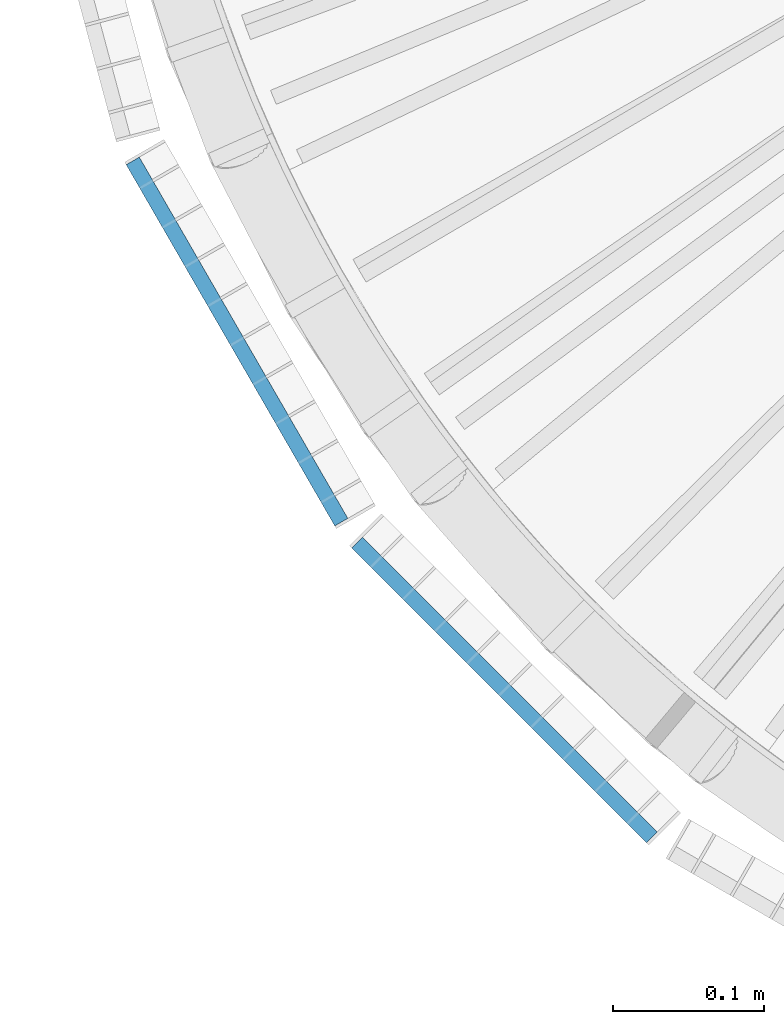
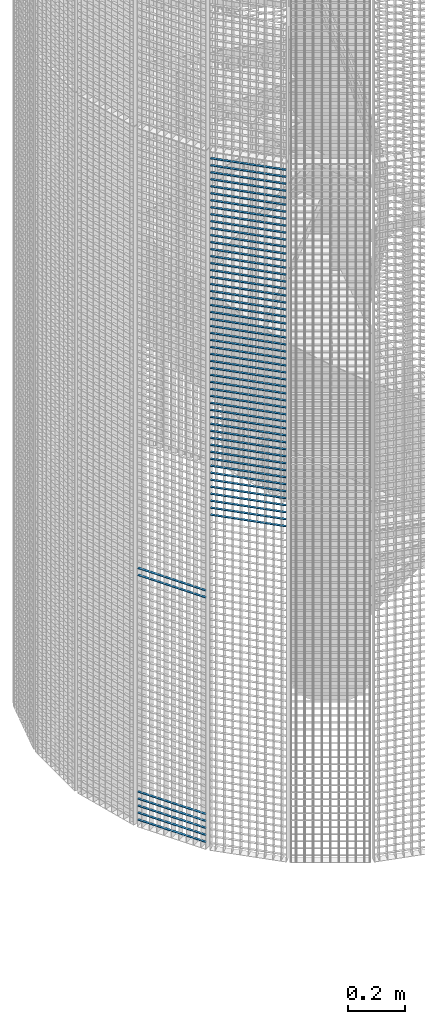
# One storey, part 382 of 1183: 59 beams, 2 elements without a shape of their own.
"""IFC2X3 building model written with IfcOpenShell, lengths in millimetres."""

from ifc_helpers import new_model, si_unit, frame, origin_with_axes, origin_2d_with_axis, place, context, subcontext, project, spatial, rectangle, extrude, material, type_object, element, aggregate, save


model = new_model("IFC2X3")

# Units and contexts
model_context = context("Model", 3, precision=1e-05, world=origin_with_axes())
body_context = subcontext(model_context, "Body", "Model", "MODEL_VIEW")
ifc_project = project(units=[si_unit("LENGTHUNIT", "METRE", prefix="MILLI"), si_unit("AREAUNIT", "SQUARE_METRE"), si_unit("VOLUMEUNIT", "CUBIC_METRE"), si_unit("MASSUNIT", "GRAM", prefix="KILO"), si_unit("TIMEUNIT", "SECOND"), si_unit("PLANEANGLEUNIT", "RADIAN"), si_unit("SOLIDANGLEUNIT", "STERADIAN"), si_unit("THERMODYNAMICTEMPERATUREUNIT", "DEGREE_CELSIUS"), si_unit("LUMINOUSINTENSITYUNIT", "LUMEN")], contexts=[model_context])

# Site, building, storey
site_placement = place(None, origin_with_axes())
site = spatial("IfcSite", under=ifc_project, at=site_placement, Name="Undefined", CompositionType="ELEMENT")
building_placement = place(site_placement, origin_with_axes())
building = spatial("IfcBuilding", under=site, at=building_placement, Name="Undefined", CompositionType="ELEMENT")
storey_placement = place(building_placement, origin_with_axes())
storey = spatial("IfcBuildingStorey", under=building, at=storey_placement, Name="Undefined", CompositionType="ELEMENT", Elevation=0.0)

# Assembly, beams
assembly_1_placement = place(storey_placement, origin_with_axes())
assembly_1 = element("IfcElementAssembly", 1, at=assembly_1_placement, inside=storey, Name="BORDURE", AssemblyPlace="NOTDEFINED", PredefinedType="NOTDEFINED")
ifc_material = material(Name="STEEL/S235JR")
beam_type = type_object("IfcBeamType", Name="PL2*10", PredefinedType="NOTDEFINED")
beam_1_placement = place(assembly_1_placement, frame((20704.6960350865, -676.24804453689, 149.999999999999), z_axis=(-0.866025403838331, -0.499999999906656, 0.0), x_axis=(-0.49999999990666, 0.866025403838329, 0.0)))
beam_1 = element("IfcBeam", 2, at=beam_1_placement, type_object=beam_type, material=ifc_material, Name="ENTRETOISE", context=body_context, shape_type="SweptSolid", body=[
    extrude(rectangle(XDim=2.0, YDim=10.0, at=origin_2d_with_axis()), frame((275.999999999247, 9.09494701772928e-13, 1.53210777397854e-14), z_axis=(-1.0, 0.0, 0.0), x_axis=(0.0, -1.0, 0.0)), (0.0, 0.0, 1.0), 276.0),
])
beam_2_placement = place(assembly_1_placement, frame((20704.6960350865, -676.24804453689, 119.999999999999), z_axis=(-0.866025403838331, -0.499999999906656, 0.0), x_axis=(-0.49999999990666, 0.866025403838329, 0.0)))
beam_2 = element("IfcBeam", 3, at=beam_2_placement, type_object=beam_type, material=ifc_material, Name="ENTRETOISE", context=body_context, shape_type="SweptSolid", body=[
    extrude(rectangle(XDim=2.0, YDim=10.0, at=origin_2d_with_axis()), frame((275.999999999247, 9.09494701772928e-13, 1.53210777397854e-14), z_axis=(-1.0, 0.0, 0.0), x_axis=(0.0, -1.0, 0.0)), (0.0, 0.0, 1.0), 276.0),
])
beam_3_placement = place(assembly_1_placement, frame((20704.6960350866, -676.248044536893, 1080.0), z_axis=(-0.866025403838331, -0.499999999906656, 0.0), x_axis=(-0.49999999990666, 0.866025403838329, 0.0)))
beam_3 = element("IfcBeam", 4, at=beam_3_placement, type_object=beam_type, material=ifc_material, Name="ENTRETOISE", context=body_context, shape_type="SweptSolid", body=[
    extrude(rectangle(XDim=2.0, YDim=10.0, at=origin_2d_with_axis()), frame((275.999999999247, 9.09494701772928e-13, 1.53210777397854e-14), z_axis=(-1.0, 0.0, 0.0), x_axis=(0.0, -1.0, 0.0)), (0.0, 0.0, 1.0), 276.0),
])
beam_4_placement = place(assembly_1_placement, frame((20704.6960350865, -676.248044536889, 89.9999999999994), z_axis=(-0.866025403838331, -0.499999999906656, 0.0), x_axis=(-0.49999999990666, 0.866025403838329, 0.0)))
beam_4 = element("IfcBeam", 5, at=beam_4_placement, type_object=beam_type, material=ifc_material, Name="ENTRETOISE", context=body_context, shape_type="SweptSolid", body=[
    extrude(rectangle(XDim=2.0, YDim=10.0, at=origin_2d_with_axis()), frame((275.999999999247, 9.09494701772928e-13, 1.53210777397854e-14), z_axis=(-1.0, 0.0, 0.0), x_axis=(0.0, -1.0, 0.0)), (0.0, 0.0, 1.0), 276.0),
])
beam_5_placement = place(assembly_1_placement, frame((20704.6960350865, -676.248044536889, 59.9999999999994), z_axis=(-0.866025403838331, -0.499999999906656, 0.0), x_axis=(-0.49999999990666, 0.866025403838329, 0.0)))
beam_5 = element("IfcBeam", 6, at=beam_5_placement, type_object=beam_type, material=ifc_material, Name="ENTRETOISE", context=body_context, shape_type="SweptSolid", body=[
    extrude(rectangle(XDim=2.0, YDim=10.0, at=origin_2d_with_axis()), frame((275.999999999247, 9.09494701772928e-13, 1.53210777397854e-14), z_axis=(-1.0, 0.0, 0.0), x_axis=(0.0, -1.0, 0.0)), (0.0, 0.0, 1.0), 276.0),
])
beam_6_placement = place(assembly_1_placement, frame((20704.6960350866, -676.248044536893, 1110.0), z_axis=(-0.866025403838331, -0.499999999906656, 0.0), x_axis=(-0.49999999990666, 0.866025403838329, 0.0)))
beam_6 = element("IfcBeam", 7, at=beam_6_placement, type_object=beam_type, material=ifc_material, Name="ENTRETOISE", context=body_context, shape_type="SweptSolid", body=[
    extrude(rectangle(XDim=2.0, YDim=10.0, at=origin_2d_with_axis()), frame((275.999999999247, 9.09494701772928e-13, 1.53210777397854e-14), z_axis=(-1.0, 0.0, 0.0), x_axis=(0.0, -1.0, 0.0)), (0.0, 0.0, 1.0), 276.0),
])
beam_7_placement = place(assembly_1_placement, frame((20704.6960350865, -676.248044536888, 29.9999999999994), z_axis=(-0.866025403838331, -0.499999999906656, 0.0), x_axis=(-0.49999999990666, 0.866025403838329, 0.0)))
beam_7 = element("IfcBeam", 8, at=beam_7_placement, type_object=beam_type, material=ifc_material, Name="ENTRETOISE", context=body_context, shape_type="SweptSolid", body=[
    extrude(rectangle(XDim=2.0, YDim=10.0, at=origin_2d_with_axis()), frame((275.999999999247, 9.09494701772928e-13, 1.53210777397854e-14), z_axis=(-1.0, 0.0, 0.0), x_axis=(0.0, -1.0, 0.0)), (0.0, 0.0, 1.0), 276.0),
])
aggregate(assembly_1, [beam_1, beam_2, beam_3, beam_4, beam_5, beam_6, beam_7])

assembly_2_placement = place(storey_placement, origin_with_axes())
assembly_2 = element("IfcElementAssembly", 9, at=assembly_2_placement, inside=storey, Name="BORDURE", AssemblyPlace="NOTDEFINED", PredefinedType="NOTDEFINED")
beam_8_placement = place(assembly_2_placement, frame((20910.2286510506, -884.927168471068, 2970.0), z_axis=(-0.70710678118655, -0.707106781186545, 0.0), x_axis=(-0.707106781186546, 0.707106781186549, 0.0)))
beam_8 = element("IfcBeam", 10, at=beam_8_placement, type_object=beam_type, material=ifc_material, Name="ENTRETOISE", context=body_context, shape_type="SweptSolid", body=[
    extrude(rectangle(XDim=2.0, YDim=10.0, at=origin_2d_with_axis()), frame((275.999999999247, 9.09494701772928e-13, 1.53210777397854e-14), z_axis=(-1.0, 0.0, 0.0), x_axis=(0.0, -1.0, 0.0)), (0.0, 0.0, 1.0), 276.0),
])
beam_9_placement = place(assembly_2_placement, frame((20910.2286510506, -884.927168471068, 2940.0), z_axis=(-0.70710678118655, -0.707106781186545, 0.0), x_axis=(-0.707106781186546, 0.707106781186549, 0.0)))
beam_9 = element("IfcBeam", 11, at=beam_9_placement, type_object=beam_type, material=ifc_material, Name="ENTRETOISE", context=body_context, shape_type="SweptSolid", body=[
    extrude(rectangle(XDim=2.0, YDim=10.0, at=origin_2d_with_axis()), frame((275.999999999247, 9.09494701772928e-13, 1.53210777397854e-14), z_axis=(-1.0, 0.0, 0.0), x_axis=(0.0, -1.0, 0.0)), (0.0, 0.0, 1.0), 276.0),
])
beam_10_placement = place(assembly_2_placement, frame((20910.2286510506, -884.927168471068, 2910.0), z_axis=(-0.70710678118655, -0.707106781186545, 0.0), x_axis=(-0.707106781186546, 0.707106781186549, 0.0)))
beam_10 = element("IfcBeam", 12, at=beam_10_placement, type_object=beam_type, material=ifc_material, Name="ENTRETOISE", context=body_context, shape_type="SweptSolid", body=[
    extrude(rectangle(XDim=2.0, YDim=10.0, at=origin_2d_with_axis()), frame((275.999999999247, 9.09494701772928e-13, 1.53210777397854e-14), z_axis=(-1.0, 0.0, 0.0), x_axis=(0.0, -1.0, 0.0)), (0.0, 0.0, 1.0), 276.0),
])
beam_11_placement = place(assembly_2_placement, frame((20910.2286510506, -884.927168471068, 2880.0), z_axis=(-0.70710678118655, -0.707106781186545, 0.0), x_axis=(-0.707106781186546, 0.707106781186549, 0.0)))
beam_11 = element("IfcBeam", 13, at=beam_11_placement, type_object=beam_type, material=ifc_material, Name="ENTRETOISE", context=body_context, shape_type="SweptSolid", body=[
    extrude(rectangle(XDim=2.0, YDim=10.0, at=origin_2d_with_axis()), frame((275.999999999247, 9.09494701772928e-13, 1.53210777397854e-14), z_axis=(-1.0, 0.0, 0.0), x_axis=(0.0, -1.0, 0.0)), (0.0, 0.0, 1.0), 276.0),
])
beam_12_placement = place(assembly_2_placement, frame((20910.2286510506, -884.927168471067, 2850.0), z_axis=(-0.70710678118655, -0.707106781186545, 0.0), x_axis=(-0.707106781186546, 0.707106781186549, 0.0)))
beam_12 = element("IfcBeam", 14, at=beam_12_placement, type_object=beam_type, material=ifc_material, Name="ENTRETOISE", context=body_context, shape_type="SweptSolid", body=[
    extrude(rectangle(XDim=2.0, YDim=10.0, at=origin_2d_with_axis()), frame((275.999999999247, 9.09494701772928e-13, 1.53210777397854e-14), z_axis=(-1.0, 0.0, 0.0), x_axis=(0.0, -1.0, 0.0)), (0.0, 0.0, 1.0), 276.0),
])
beam_13_placement = place(assembly_2_placement, frame((20910.2286510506, -884.927168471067, 2820.0), z_axis=(-0.70710678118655, -0.707106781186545, 0.0), x_axis=(-0.707106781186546, 0.707106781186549, 0.0)))
beam_13 = element("IfcBeam", 15, at=beam_13_placement, type_object=beam_type, material=ifc_material, Name="ENTRETOISE", context=body_context, shape_type="SweptSolid", body=[
    extrude(rectangle(XDim=2.0, YDim=10.0, at=origin_2d_with_axis()), frame((275.999999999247, 9.09494701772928e-13, 1.53210777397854e-14), z_axis=(-1.0, 0.0, 0.0), x_axis=(0.0, -1.0, 0.0)), (0.0, 0.0, 1.0), 276.0),
])
beam_14_placement = place(assembly_2_placement, frame((20910.2286510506, -884.927168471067, 2790.0), z_axis=(-0.70710678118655, -0.707106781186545, 0.0), x_axis=(-0.707106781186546, 0.707106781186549, 0.0)))
beam_14 = element("IfcBeam", 16, at=beam_14_placement, type_object=beam_type, material=ifc_material, Name="ENTRETOISE", context=body_context, shape_type="SweptSolid", body=[
    extrude(rectangle(XDim=2.0, YDim=10.0, at=origin_2d_with_axis()), frame((275.999999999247, 9.09494701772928e-13, 1.53210777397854e-14), z_axis=(-1.0, 0.0, 0.0), x_axis=(0.0, -1.0, 0.0)), (0.0, 0.0, 1.0), 276.0),
])
beam_15_placement = place(assembly_2_placement, frame((20910.2286510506, -884.927168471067, 2760.0), z_axis=(-0.70710678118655, -0.707106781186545, 0.0), x_axis=(-0.707106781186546, 0.707106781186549, 0.0)))
beam_15 = element("IfcBeam", 17, at=beam_15_placement, type_object=beam_type, material=ifc_material, Name="ENTRETOISE", context=body_context, shape_type="SweptSolid", body=[
    extrude(rectangle(XDim=2.0, YDim=10.0, at=origin_2d_with_axis()), frame((275.999999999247, 9.09494701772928e-13, 1.53210777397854e-14), z_axis=(-1.0, 0.0, 0.0), x_axis=(0.0, -1.0, 0.0)), (0.0, 0.0, 1.0), 276.0),
])
beam_16_placement = place(assembly_2_placement, frame((20910.2286510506, -884.927168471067, 2730.0), z_axis=(-0.70710678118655, -0.707106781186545, 0.0), x_axis=(-0.707106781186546, 0.707106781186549, 0.0)))
beam_16 = element("IfcBeam", 18, at=beam_16_placement, type_object=beam_type, material=ifc_material, Name="ENTRETOISE", context=body_context, shape_type="SweptSolid", body=[
    extrude(rectangle(XDim=2.0, YDim=10.0, at=origin_2d_with_axis()), frame((275.999999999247, 9.09494701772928e-13, 1.53210777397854e-14), z_axis=(-1.0, 0.0, 0.0), x_axis=(0.0, -1.0, 0.0)), (0.0, 0.0, 1.0), 276.0),
])
beam_17_placement = place(assembly_2_placement, frame((20910.2286510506, -884.927168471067, 2700.0), z_axis=(-0.70710678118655, -0.707106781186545, 0.0), x_axis=(-0.707106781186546, 0.707106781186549, 0.0)))
beam_17 = element("IfcBeam", 19, at=beam_17_placement, type_object=beam_type, material=ifc_material, Name="ENTRETOISE", context=body_context, shape_type="SweptSolid", body=[
    extrude(rectangle(XDim=2.0, YDim=10.0, at=origin_2d_with_axis()), frame((275.999999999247, 9.09494701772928e-13, 1.53210777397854e-14), z_axis=(-1.0, 0.0, 0.0), x_axis=(0.0, -1.0, 0.0)), (0.0, 0.0, 1.0), 276.0),
])
beam_18_placement = place(assembly_2_placement, frame((20910.2286510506, -884.927168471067, 2670.0), z_axis=(-0.70710678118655, -0.707106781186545, 0.0), x_axis=(-0.707106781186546, 0.707106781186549, 0.0)))
beam_18 = element("IfcBeam", 20, at=beam_18_placement, type_object=beam_type, material=ifc_material, Name="ENTRETOISE", context=body_context, shape_type="SweptSolid", body=[
    extrude(rectangle(XDim=2.0, YDim=10.0, at=origin_2d_with_axis()), frame((275.999999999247, 9.09494701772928e-13, 1.53210777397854e-14), z_axis=(-1.0, 0.0, 0.0), x_axis=(0.0, -1.0, 0.0)), (0.0, 0.0, 1.0), 276.0),
])
beam_19_placement = place(assembly_2_placement, frame((20910.2286510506, -884.927168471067, 2640.0), z_axis=(-0.70710678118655, -0.707106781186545, 0.0), x_axis=(-0.707106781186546, 0.707106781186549, 0.0)))
beam_19 = element("IfcBeam", 21, at=beam_19_placement, type_object=beam_type, material=ifc_material, Name="ENTRETOISE", context=body_context, shape_type="SweptSolid", body=[
    extrude(rectangle(XDim=2.0, YDim=10.0, at=origin_2d_with_axis()), frame((275.999999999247, 9.09494701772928e-13, 1.53210777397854e-14), z_axis=(-1.0, 0.0, 0.0), x_axis=(0.0, -1.0, 0.0)), (0.0, 0.0, 1.0), 276.0),
])
beam_20_placement = place(assembly_2_placement, frame((20910.2286510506, -884.927168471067, 2610.0), z_axis=(-0.70710678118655, -0.707106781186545, 0.0), x_axis=(-0.707106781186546, 0.707106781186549, 0.0)))
beam_20 = element("IfcBeam", 22, at=beam_20_placement, type_object=beam_type, material=ifc_material, Name="ENTRETOISE", context=body_context, shape_type="SweptSolid", body=[
    extrude(rectangle(XDim=2.0, YDim=10.0, at=origin_2d_with_axis()), frame((275.999999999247, 9.09494701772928e-13, 1.53210777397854e-14), z_axis=(-1.0, 0.0, 0.0), x_axis=(0.0, -1.0, 0.0)), (0.0, 0.0, 1.0), 276.0),
])
beam_21_placement = place(assembly_2_placement, frame((20910.2286510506, -884.927168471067, 2580.0), z_axis=(-0.70710678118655, -0.707106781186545, 0.0), x_axis=(-0.707106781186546, 0.707106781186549, 0.0)))
beam_21 = element("IfcBeam", 23, at=beam_21_placement, type_object=beam_type, material=ifc_material, Name="ENTRETOISE", context=body_context, shape_type="SweptSolid", body=[
    extrude(rectangle(XDim=2.0, YDim=10.0, at=origin_2d_with_axis()), frame((275.999999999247, 9.09494701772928e-13, 1.53210777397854e-14), z_axis=(-1.0, 0.0, 0.0), x_axis=(0.0, -1.0, 0.0)), (0.0, 0.0, 1.0), 276.0),
])
beam_22_placement = place(assembly_2_placement, frame((20910.2286510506, -884.927168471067, 2550.0), z_axis=(-0.70710678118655, -0.707106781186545, 0.0), x_axis=(-0.707106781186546, 0.707106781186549, 0.0)))
beam_22 = element("IfcBeam", 24, at=beam_22_placement, type_object=beam_type, material=ifc_material, Name="ENTRETOISE", context=body_context, shape_type="SweptSolid", body=[
    extrude(rectangle(XDim=2.0, YDim=10.0, at=origin_2d_with_axis()), frame((275.999999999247, 9.09494701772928e-13, 1.53210777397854e-14), z_axis=(-1.0, 0.0, 0.0), x_axis=(0.0, -1.0, 0.0)), (0.0, 0.0, 1.0), 276.0),
])
beam_23_placement = place(assembly_2_placement, frame((20910.2286510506, -884.927168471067, 2520.0), z_axis=(-0.70710678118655, -0.707106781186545, 0.0), x_axis=(-0.707106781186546, 0.707106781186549, 0.0)))
beam_23 = element("IfcBeam", 25, at=beam_23_placement, type_object=beam_type, material=ifc_material, Name="ENTRETOISE", context=body_context, shape_type="SweptSolid", body=[
    extrude(rectangle(XDim=2.0, YDim=10.0, at=origin_2d_with_axis()), frame((275.999999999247, 9.09494701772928e-13, 1.53210777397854e-14), z_axis=(-1.0, 0.0, 0.0), x_axis=(0.0, -1.0, 0.0)), (0.0, 0.0, 1.0), 276.0),
])
beam_24_placement = place(assembly_2_placement, frame((20910.2286510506, -884.927168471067, 2490.0), z_axis=(-0.70710678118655, -0.707106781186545, 0.0), x_axis=(-0.707106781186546, 0.707106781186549, 0.0)))
beam_24 = element("IfcBeam", 26, at=beam_24_placement, type_object=beam_type, material=ifc_material, Name="ENTRETOISE", context=body_context, shape_type="SweptSolid", body=[
    extrude(rectangle(XDim=2.0, YDim=10.0, at=origin_2d_with_axis()), frame((275.999999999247, 9.09494701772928e-13, 1.53210777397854e-14), z_axis=(-1.0, 0.0, 0.0), x_axis=(0.0, -1.0, 0.0)), (0.0, 0.0, 1.0), 276.0),
])
beam_25_placement = place(assembly_2_placement, frame((20910.2286510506, -884.927168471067, 2460.0), z_axis=(-0.70710678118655, -0.707106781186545, 0.0), x_axis=(-0.707106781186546, 0.707106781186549, 0.0)))
beam_25 = element("IfcBeam", 27, at=beam_25_placement, type_object=beam_type, material=ifc_material, Name="ENTRETOISE", context=body_context, shape_type="SweptSolid", body=[
    extrude(rectangle(XDim=2.0, YDim=10.0, at=origin_2d_with_axis()), frame((275.999999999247, 9.09494701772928e-13, 1.53210777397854e-14), z_axis=(-1.0, 0.0, 0.0), x_axis=(0.0, -1.0, 0.0)), (0.0, 0.0, 1.0), 276.0),
])
beam_26_placement = place(assembly_2_placement, frame((20910.2286510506, -884.927168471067, 2430.0), z_axis=(-0.70710678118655, -0.707106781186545, 0.0), x_axis=(-0.707106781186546, 0.707106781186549, 0.0)))
beam_26 = element("IfcBeam", 28, at=beam_26_placement, type_object=beam_type, material=ifc_material, Name="ENTRETOISE", context=body_context, shape_type="SweptSolid", body=[
    extrude(rectangle(XDim=2.0, YDim=10.0, at=origin_2d_with_axis()), frame((275.999999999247, 9.09494701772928e-13, 1.53210777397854e-14), z_axis=(-1.0, 0.0, 0.0), x_axis=(0.0, -1.0, 0.0)), (0.0, 0.0, 1.0), 276.0),
])
beam_27_placement = place(assembly_2_placement, frame((20910.2286510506, -884.927168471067, 2400.0), z_axis=(-0.70710678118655, -0.707106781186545, 0.0), x_axis=(-0.707106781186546, 0.707106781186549, 0.0)))
beam_27 = element("IfcBeam", 29, at=beam_27_placement, type_object=beam_type, material=ifc_material, Name="ENTRETOISE", context=body_context, shape_type="SweptSolid", body=[
    extrude(rectangle(XDim=2.0, YDim=10.0, at=origin_2d_with_axis()), frame((275.999999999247, 9.09494701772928e-13, 1.53210777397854e-14), z_axis=(-1.0, 0.0, 0.0), x_axis=(0.0, -1.0, 0.0)), (0.0, 0.0, 1.0), 276.0),
])
beam_28_placement = place(assembly_2_placement, frame((20910.2286510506, -884.927168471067, 2370.0), z_axis=(-0.70710678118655, -0.707106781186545, 0.0), x_axis=(-0.707106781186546, 0.707106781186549, 0.0)))
beam_28 = element("IfcBeam", 30, at=beam_28_placement, type_object=beam_type, material=ifc_material, Name="ENTRETOISE", context=body_context, shape_type="SweptSolid", body=[
    extrude(rectangle(XDim=2.0, YDim=10.0, at=origin_2d_with_axis()), frame((275.999999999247, 9.09494701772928e-13, 1.53210777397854e-14), z_axis=(-1.0, 0.0, 0.0), x_axis=(0.0, -1.0, 0.0)), (0.0, 0.0, 1.0), 276.0),
])
beam_29_placement = place(assembly_2_placement, frame((20910.2286510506, -884.927168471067, 2340.0), z_axis=(-0.70710678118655, -0.707106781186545, 0.0), x_axis=(-0.707106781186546, 0.707106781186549, 0.0)))
beam_29 = element("IfcBeam", 31, at=beam_29_placement, type_object=beam_type, material=ifc_material, Name="ENTRETOISE", context=body_context, shape_type="SweptSolid", body=[
    extrude(rectangle(XDim=2.0, YDim=10.0, at=origin_2d_with_axis()), frame((275.999999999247, 9.09494701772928e-13, 1.53210777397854e-14), z_axis=(-1.0, 0.0, 0.0), x_axis=(0.0, -1.0, 0.0)), (0.0, 0.0, 1.0), 276.0),
])
beam_30_placement = place(assembly_2_placement, frame((20910.2286510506, -884.927168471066, 2310.0), z_axis=(-0.70710678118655, -0.707106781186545, 0.0), x_axis=(-0.707106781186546, 0.707106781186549, 0.0)))
beam_30 = element("IfcBeam", 32, at=beam_30_placement, type_object=beam_type, material=ifc_material, Name="ENTRETOISE", context=body_context, shape_type="SweptSolid", body=[
    extrude(rectangle(XDim=2.0, YDim=10.0, at=origin_2d_with_axis()), frame((275.999999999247, 9.09494701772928e-13, 1.53210777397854e-14), z_axis=(-1.0, 0.0, 0.0), x_axis=(0.0, -1.0, 0.0)), (0.0, 0.0, 1.0), 276.0),
])
beam_31_placement = place(assembly_2_placement, frame((20910.2286510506, -884.927168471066, 2280.0), z_axis=(-0.70710678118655, -0.707106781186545, 0.0), x_axis=(-0.707106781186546, 0.707106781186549, 0.0)))
beam_31 = element("IfcBeam", 33, at=beam_31_placement, type_object=beam_type, material=ifc_material, Name="ENTRETOISE", context=body_context, shape_type="SweptSolid", body=[
    extrude(rectangle(XDim=2.0, YDim=10.0, at=origin_2d_with_axis()), frame((275.999999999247, 9.09494701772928e-13, 1.53210777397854e-14), z_axis=(-1.0, 0.0, 0.0), x_axis=(0.0, -1.0, 0.0)), (0.0, 0.0, 1.0), 276.0),
])
beam_32_placement = place(assembly_2_placement, frame((20910.2286510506, -884.927168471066, 2250.0), z_axis=(-0.70710678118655, -0.707106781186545, 0.0), x_axis=(-0.707106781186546, 0.707106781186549, 0.0)))
beam_32 = element("IfcBeam", 34, at=beam_32_placement, type_object=beam_type, material=ifc_material, Name="ENTRETOISE", context=body_context, shape_type="SweptSolid", body=[
    extrude(rectangle(XDim=2.0, YDim=10.0, at=origin_2d_with_axis()), frame((275.999999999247, 9.09494701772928e-13, 1.53210777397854e-14), z_axis=(-1.0, 0.0, 0.0), x_axis=(0.0, -1.0, 0.0)), (0.0, 0.0, 1.0), 276.0),
])
beam_33_placement = place(assembly_2_placement, frame((20910.2286510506, -884.927168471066, 2220.0), z_axis=(-0.70710678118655, -0.707106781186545, 0.0), x_axis=(-0.707106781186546, 0.707106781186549, 0.0)))
beam_33 = element("IfcBeam", 35, at=beam_33_placement, type_object=beam_type, material=ifc_material, Name="ENTRETOISE", context=body_context, shape_type="SweptSolid", body=[
    extrude(rectangle(XDim=2.0, YDim=10.0, at=origin_2d_with_axis()), frame((275.999999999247, 9.09494701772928e-13, 1.53210777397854e-14), z_axis=(-1.0, 0.0, 0.0), x_axis=(0.0, -1.0, 0.0)), (0.0, 0.0, 1.0), 276.0),
])
beam_34_placement = place(assembly_2_placement, frame((20910.2286510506, -884.927168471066, 2190.0), z_axis=(-0.70710678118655, -0.707106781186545, 0.0), x_axis=(-0.707106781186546, 0.707106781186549, 0.0)))
beam_34 = element("IfcBeam", 36, at=beam_34_placement, type_object=beam_type, material=ifc_material, Name="ENTRETOISE", context=body_context, shape_type="SweptSolid", body=[
    extrude(rectangle(XDim=2.0, YDim=10.0, at=origin_2d_with_axis()), frame((275.999999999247, 9.09494701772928e-13, 1.53210777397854e-14), z_axis=(-1.0, 0.0, 0.0), x_axis=(0.0, -1.0, 0.0)), (0.0, 0.0, 1.0), 276.0),
])
beam_35_placement = place(assembly_2_placement, frame((20910.2286510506, -884.927168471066, 2160.0), z_axis=(-0.70710678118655, -0.707106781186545, 0.0), x_axis=(-0.707106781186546, 0.707106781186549, 0.0)))
beam_35 = element("IfcBeam", 37, at=beam_35_placement, type_object=beam_type, material=ifc_material, Name="ENTRETOISE", context=body_context, shape_type="SweptSolid", body=[
    extrude(rectangle(XDim=2.0, YDim=10.0, at=origin_2d_with_axis()), frame((275.999999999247, 9.09494701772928e-13, 1.53210777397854e-14), z_axis=(-1.0, 0.0, 0.0), x_axis=(0.0, -1.0, 0.0)), (0.0, 0.0, 1.0), 276.0),
])
beam_36_placement = place(assembly_2_placement, frame((20910.2286510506, -884.927168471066, 2130.0), z_axis=(-0.70710678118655, -0.707106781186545, 0.0), x_axis=(-0.707106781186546, 0.707106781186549, 0.0)))
beam_36 = element("IfcBeam", 38, at=beam_36_placement, type_object=beam_type, material=ifc_material, Name="ENTRETOISE", context=body_context, shape_type="SweptSolid", body=[
    extrude(rectangle(XDim=2.0, YDim=10.0, at=origin_2d_with_axis()), frame((275.999999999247, 9.09494701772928e-13, 1.53210777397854e-14), z_axis=(-1.0, 0.0, 0.0), x_axis=(0.0, -1.0, 0.0)), (0.0, 0.0, 1.0), 276.0),
])
beam_37_placement = place(assembly_2_placement, frame((20910.2286510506, -884.927168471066, 2100.0), z_axis=(-0.70710678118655, -0.707106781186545, 0.0), x_axis=(-0.707106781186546, 0.707106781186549, 0.0)))
beam_37 = element("IfcBeam", 39, at=beam_37_placement, type_object=beam_type, material=ifc_material, Name="ENTRETOISE", context=body_context, shape_type="SweptSolid", body=[
    extrude(rectangle(XDim=2.0, YDim=10.0, at=origin_2d_with_axis()), frame((275.999999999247, 9.09494701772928e-13, 1.53210777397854e-14), z_axis=(-1.0, 0.0, 0.0), x_axis=(0.0, -1.0, 0.0)), (0.0, 0.0, 1.0), 276.0),
])
beam_38_placement = place(assembly_2_placement, frame((20910.2286510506, -884.927168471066, 2070.0), z_axis=(-0.70710678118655, -0.707106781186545, 0.0), x_axis=(-0.707106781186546, 0.707106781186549, 0.0)))
beam_38 = element("IfcBeam", 40, at=beam_38_placement, type_object=beam_type, material=ifc_material, Name="ENTRETOISE", context=body_context, shape_type="SweptSolid", body=[
    extrude(rectangle(XDim=2.0, YDim=10.0, at=origin_2d_with_axis()), frame((275.999999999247, 9.09494701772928e-13, 1.53210777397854e-14), z_axis=(-1.0, 0.0, 0.0), x_axis=(0.0, -1.0, 0.0)), (0.0, 0.0, 1.0), 276.0),
])
beam_39_placement = place(assembly_2_placement, frame((20910.2286510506, -884.927168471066, 2040.0), z_axis=(-0.70710678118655, -0.707106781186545, 0.0), x_axis=(-0.707106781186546, 0.707106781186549, 0.0)))
beam_39 = element("IfcBeam", 41, at=beam_39_placement, type_object=beam_type, material=ifc_material, Name="ENTRETOISE", context=body_context, shape_type="SweptSolid", body=[
    extrude(rectangle(XDim=2.0, YDim=10.0, at=origin_2d_with_axis()), frame((275.999999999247, 9.09494701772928e-13, 1.53210777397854e-14), z_axis=(-1.0, 0.0, 0.0), x_axis=(0.0, -1.0, 0.0)), (0.0, 0.0, 1.0), 276.0),
])
beam_40_placement = place(assembly_2_placement, frame((20910.2286510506, -884.927168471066, 2010.0), z_axis=(-0.70710678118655, -0.707106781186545, 0.0), x_axis=(-0.707106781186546, 0.707106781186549, 0.0)))
beam_40 = element("IfcBeam", 42, at=beam_40_placement, type_object=beam_type, material=ifc_material, Name="ENTRETOISE", context=body_context, shape_type="SweptSolid", body=[
    extrude(rectangle(XDim=2.0, YDim=10.0, at=origin_2d_with_axis()), frame((275.999999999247, 9.09494701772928e-13, 1.53210777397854e-14), z_axis=(-1.0, 0.0, 0.0), x_axis=(0.0, -1.0, 0.0)), (0.0, 0.0, 1.0), 276.0),
])
beam_41_placement = place(assembly_2_placement, frame((20910.2286510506, -884.927168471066, 1980.0), z_axis=(-0.70710678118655, -0.707106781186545, 0.0), x_axis=(-0.707106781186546, 0.707106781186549, 0.0)))
beam_41 = element("IfcBeam", 43, at=beam_41_placement, type_object=beam_type, material=ifc_material, Name="ENTRETOISE", context=body_context, shape_type="SweptSolid", body=[
    extrude(rectangle(XDim=2.0, YDim=10.0, at=origin_2d_with_axis()), frame((275.999999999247, 9.09494701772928e-13, 1.53210777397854e-14), z_axis=(-1.0, 0.0, 0.0), x_axis=(0.0, -1.0, 0.0)), (0.0, 0.0, 1.0), 276.0),
])
beam_42_placement = place(assembly_2_placement, frame((20910.2286510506, -884.927168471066, 1950.0), z_axis=(-0.70710678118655, -0.707106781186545, 0.0), x_axis=(-0.707106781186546, 0.707106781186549, 0.0)))
beam_42 = element("IfcBeam", 44, at=beam_42_placement, type_object=beam_type, material=ifc_material, Name="ENTRETOISE", context=body_context, shape_type="SweptSolid", body=[
    extrude(rectangle(XDim=2.0, YDim=10.0, at=origin_2d_with_axis()), frame((275.999999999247, 9.09494701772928e-13, 1.53210777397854e-14), z_axis=(-1.0, 0.0, 0.0), x_axis=(0.0, -1.0, 0.0)), (0.0, 0.0, 1.0), 276.0),
])
beam_43_placement = place(assembly_2_placement, frame((20910.2286510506, -884.927168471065, 1920.0), z_axis=(-0.70710678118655, -0.707106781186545, 0.0), x_axis=(-0.707106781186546, 0.707106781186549, 0.0)))
beam_43 = element("IfcBeam", 45, at=beam_43_placement, type_object=beam_type, material=ifc_material, Name="ENTRETOISE", context=body_context, shape_type="SweptSolid", body=[
    extrude(rectangle(XDim=2.0, YDim=10.0, at=origin_2d_with_axis()), frame((275.999999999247, 9.09494701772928e-13, 1.53210777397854e-14), z_axis=(-1.0, 0.0, 0.0), x_axis=(0.0, -1.0, 0.0)), (0.0, 0.0, 1.0), 276.0),
])
beam_44_placement = place(assembly_2_placement, frame((20910.2286510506, -884.927168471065, 1890.0), z_axis=(-0.70710678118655, -0.707106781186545, 0.0), x_axis=(-0.707106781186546, 0.707106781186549, 0.0)))
beam_44 = element("IfcBeam", 46, at=beam_44_placement, type_object=beam_type, material=ifc_material, Name="ENTRETOISE", context=body_context, shape_type="SweptSolid", body=[
    extrude(rectangle(XDim=2.0, YDim=10.0, at=origin_2d_with_axis()), frame((275.999999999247, 9.09494701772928e-13, 1.53210777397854e-14), z_axis=(-1.0, 0.0, 0.0), x_axis=(0.0, -1.0, 0.0)), (0.0, 0.0, 1.0), 276.0),
])
beam_45_placement = place(assembly_2_placement, frame((20910.2286510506, -884.927168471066, 1860.0), z_axis=(-0.70710678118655, -0.707106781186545, 0.0), x_axis=(-0.707106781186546, 0.707106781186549, 0.0)))
beam_45 = element("IfcBeam", 47, at=beam_45_placement, type_object=beam_type, material=ifc_material, Name="ENTRETOISE", context=body_context, shape_type="SweptSolid", body=[
    extrude(rectangle(XDim=2.0, YDim=10.0, at=origin_2d_with_axis()), frame((275.999999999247, 9.09494701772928e-13, 1.53210777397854e-14), z_axis=(-1.0, 0.0, 0.0), x_axis=(0.0, -1.0, 0.0)), (0.0, 0.0, 1.0), 276.0),
])
beam_46_placement = place(assembly_2_placement, frame((20910.2286510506, -884.927168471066, 1830.0), z_axis=(-0.70710678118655, -0.707106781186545, 0.0), x_axis=(-0.707106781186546, 0.707106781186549, 0.0)))
beam_46 = element("IfcBeam", 48, at=beam_46_placement, type_object=beam_type, material=ifc_material, Name="ENTRETOISE", context=body_context, shape_type="SweptSolid", body=[
    extrude(rectangle(XDim=2.0, YDim=10.0, at=origin_2d_with_axis()), frame((275.999999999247, 9.09494701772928e-13, 1.53210777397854e-14), z_axis=(-1.0, 0.0, 0.0), x_axis=(0.0, -1.0, 0.0)), (0.0, 0.0, 1.0), 276.0),
])
beam_47_placement = place(assembly_2_placement, frame((20910.2286510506, -884.927168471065, 1800.0), z_axis=(-0.70710678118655, -0.707106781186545, 0.0), x_axis=(-0.707106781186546, 0.707106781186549, 0.0)))
beam_47 = element("IfcBeam", 49, at=beam_47_placement, type_object=beam_type, material=ifc_material, Name="ENTRETOISE", context=body_context, shape_type="SweptSolid", body=[
    extrude(rectangle(XDim=2.0, YDim=10.0, at=origin_2d_with_axis()), frame((275.999999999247, 9.09494701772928e-13, 1.53210777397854e-14), z_axis=(-1.0, 0.0, 0.0), x_axis=(0.0, -1.0, 0.0)), (0.0, 0.0, 1.0), 276.0),
])
beam_48_placement = place(assembly_2_placement, frame((20910.2286510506, -884.927168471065, 1770.0), z_axis=(-0.70710678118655, -0.707106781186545, 0.0), x_axis=(-0.707106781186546, 0.707106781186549, 0.0)))
beam_48 = element("IfcBeam", 50, at=beam_48_placement, type_object=beam_type, material=ifc_material, Name="ENTRETOISE", context=body_context, shape_type="SweptSolid", body=[
    extrude(rectangle(XDim=2.0, YDim=10.0, at=origin_2d_with_axis()), frame((275.999999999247, 9.09494701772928e-13, 1.53210777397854e-14), z_axis=(-1.0, 0.0, 0.0), x_axis=(0.0, -1.0, 0.0)), (0.0, 0.0, 1.0), 276.0),
])
beam_49_placement = place(assembly_2_placement, frame((20910.2286510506, -884.927168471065, 1740.0), z_axis=(-0.70710678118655, -0.707106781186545, 0.0), x_axis=(-0.707106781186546, 0.707106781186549, 0.0)))
beam_49 = element("IfcBeam", 51, at=beam_49_placement, type_object=beam_type, material=ifc_material, Name="ENTRETOISE", context=body_context, shape_type="SweptSolid", body=[
    extrude(rectangle(XDim=2.0, YDim=10.0, at=origin_2d_with_axis()), frame((275.999999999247, 9.09494701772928e-13, 1.53210777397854e-14), z_axis=(-1.0, 0.0, 0.0), x_axis=(0.0, -1.0, 0.0)), (0.0, 0.0, 1.0), 276.0),
])
beam_50_placement = place(assembly_2_placement, frame((20910.2286510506, -884.927168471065, 1710.0), z_axis=(-0.70710678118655, -0.707106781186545, 0.0), x_axis=(-0.707106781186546, 0.707106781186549, 0.0)))
beam_50 = element("IfcBeam", 52, at=beam_50_placement, type_object=beam_type, material=ifc_material, Name="ENTRETOISE", context=body_context, shape_type="SweptSolid", body=[
    extrude(rectangle(XDim=2.0, YDim=10.0, at=origin_2d_with_axis()), frame((275.999999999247, 9.09494701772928e-13, 1.53210777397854e-14), z_axis=(-1.0, 0.0, 0.0), x_axis=(0.0, -1.0, 0.0)), (0.0, 0.0, 1.0), 276.0),
])
beam_51_placement = place(assembly_2_placement, frame((20910.2286510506, -884.927168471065, 1680.0), z_axis=(-0.70710678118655, -0.707106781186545, 0.0), x_axis=(-0.707106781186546, 0.707106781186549, 0.0)))
beam_51 = element("IfcBeam", 53, at=beam_51_placement, type_object=beam_type, material=ifc_material, Name="ENTRETOISE", context=body_context, shape_type="SweptSolid", body=[
    extrude(rectangle(XDim=2.0, YDim=10.0, at=origin_2d_with_axis()), frame((275.999999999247, 9.09494701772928e-13, 1.53210777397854e-14), z_axis=(-1.0, 0.0, 0.0), x_axis=(0.0, -1.0, 0.0)), (0.0, 0.0, 1.0), 276.0),
])
beam_52_placement = place(assembly_2_placement, frame((20910.2286510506, -884.927168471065, 1650.0), z_axis=(-0.70710678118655, -0.707106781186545, 0.0), x_axis=(-0.707106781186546, 0.707106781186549, 0.0)))
beam_52 = element("IfcBeam", 54, at=beam_52_placement, type_object=beam_type, material=ifc_material, Name="ENTRETOISE", context=body_context, shape_type="SweptSolid", body=[
    extrude(rectangle(XDim=2.0, YDim=10.0, at=origin_2d_with_axis()), frame((275.999999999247, 9.09494701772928e-13, 1.53210777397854e-14), z_axis=(-1.0, 0.0, 0.0), x_axis=(0.0, -1.0, 0.0)), (0.0, 0.0, 1.0), 276.0),
])
beam_53_placement = place(assembly_2_placement, frame((20910.2286510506, -884.927168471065, 1620.0), z_axis=(-0.70710678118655, -0.707106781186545, 0.0), x_axis=(-0.707106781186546, 0.707106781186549, 0.0)))
beam_53 = element("IfcBeam", 55, at=beam_53_placement, type_object=beam_type, material=ifc_material, Name="ENTRETOISE", context=body_context, shape_type="SweptSolid", body=[
    extrude(rectangle(XDim=2.0, YDim=10.0, at=origin_2d_with_axis()), frame((275.999999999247, 9.09494701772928e-13, 1.53210777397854e-14), z_axis=(-1.0, 0.0, 0.0), x_axis=(0.0, -1.0, 0.0)), (0.0, 0.0, 1.0), 276.0),
])
beam_54_placement = place(assembly_2_placement, frame((20910.2286510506, -884.927168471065, 1590.0), z_axis=(-0.70710678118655, -0.707106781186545, 0.0), x_axis=(-0.707106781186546, 0.707106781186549, 0.0)))
beam_54 = element("IfcBeam", 56, at=beam_54_placement, type_object=beam_type, material=ifc_material, Name="ENTRETOISE", context=body_context, shape_type="SweptSolid", body=[
    extrude(rectangle(XDim=2.0, YDim=10.0, at=origin_2d_with_axis()), frame((275.999999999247, 9.09494701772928e-13, 1.53210777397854e-14), z_axis=(-1.0, 0.0, 0.0), x_axis=(0.0, -1.0, 0.0)), (0.0, 0.0, 1.0), 276.0),
])
beam_55_placement = place(assembly_2_placement, frame((20910.2286510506, -884.927168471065, 1560.0), z_axis=(-0.70710678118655, -0.707106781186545, 0.0), x_axis=(-0.707106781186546, 0.707106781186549, 0.0)))
beam_55 = element("IfcBeam", 57, at=beam_55_placement, type_object=beam_type, material=ifc_material, Name="ENTRETOISE", context=body_context, shape_type="SweptSolid", body=[
    extrude(rectangle(XDim=2.0, YDim=10.0, at=origin_2d_with_axis()), frame((275.999999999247, 9.09494701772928e-13, 1.53210777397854e-14), z_axis=(-1.0, 0.0, 0.0), x_axis=(0.0, -1.0, 0.0)), (0.0, 0.0, 1.0), 276.0),
])
beam_56_placement = place(assembly_2_placement, frame((20910.2286510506, -884.927168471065, 1530.0), z_axis=(-0.70710678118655, -0.707106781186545, 0.0), x_axis=(-0.707106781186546, 0.707106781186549, 0.0)))
beam_56 = element("IfcBeam", 58, at=beam_56_placement, type_object=beam_type, material=ifc_material, Name="ENTRETOISE", context=body_context, shape_type="SweptSolid", body=[
    extrude(rectangle(XDim=2.0, YDim=10.0, at=origin_2d_with_axis()), frame((275.999999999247, 9.09494701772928e-13, 1.53210777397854e-14), z_axis=(-1.0, 0.0, 0.0), x_axis=(0.0, -1.0, 0.0)), (0.0, 0.0, 1.0), 276.0),
])
beam_57_placement = place(assembly_2_placement, frame((20910.2286510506, -884.927168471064, 1500.0), z_axis=(-0.70710678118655, -0.707106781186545, 0.0), x_axis=(-0.707106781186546, 0.707106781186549, 0.0)))
beam_57 = element("IfcBeam", 59, at=beam_57_placement, type_object=beam_type, material=ifc_material, Name="ENTRETOISE", context=body_context, shape_type="SweptSolid", body=[
    extrude(rectangle(XDim=2.0, YDim=10.0, at=origin_2d_with_axis()), frame((275.999999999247, 9.09494701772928e-13, 1.53210777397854e-14), z_axis=(-1.0, 0.0, 0.0), x_axis=(0.0, -1.0, 0.0)), (0.0, 0.0, 1.0), 276.0),
])
beam_58_placement = place(assembly_2_placement, frame((20910.2286510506, -884.927168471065, 1470.0), z_axis=(-0.70710678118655, -0.707106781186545, 0.0), x_axis=(-0.707106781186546, 0.707106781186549, 0.0)))
beam_58 = element("IfcBeam", 60, at=beam_58_placement, type_object=beam_type, material=ifc_material, Name="ENTRETOISE", context=body_context, shape_type="SweptSolid", body=[
    extrude(rectangle(XDim=2.0, YDim=10.0, at=origin_2d_with_axis()), frame((275.999999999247, 9.09494701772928e-13, 1.53210777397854e-14), z_axis=(-1.0, 0.0, 0.0), x_axis=(0.0, -1.0, 0.0)), (0.0, 0.0, 1.0), 276.0),
])
beam_59_placement = place(assembly_2_placement, frame((20910.2286510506, -884.927168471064, 1440.0), z_axis=(-0.70710678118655, -0.707106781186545, 0.0), x_axis=(-0.707106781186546, 0.707106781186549, 0.0)))
beam_59 = element("IfcBeam", 61, at=beam_59_placement, type_object=beam_type, material=ifc_material, Name="ENTRETOISE", context=body_context, shape_type="SweptSolid", body=[
    extrude(rectangle(XDim=2.0, YDim=10.0, at=origin_2d_with_axis()), frame((275.999999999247, 9.09494701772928e-13, 1.53210777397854e-14), z_axis=(-1.0, 0.0, 0.0), x_axis=(0.0, -1.0, 0.0)), (0.0, 0.0, 1.0), 276.0),
])
aggregate(assembly_2, [beam_8, beam_9, beam_10, beam_11, beam_12, beam_13, beam_14, beam_15, beam_16, beam_17, beam_18, beam_19, beam_20, beam_21, beam_22, beam_23, beam_24, beam_25, beam_26, beam_27, beam_28, beam_29, beam_30, beam_31, beam_32, beam_33, beam_34, beam_35, beam_36, beam_37, beam_38, beam_39, beam_40, beam_41, beam_42, beam_43, beam_44, beam_45, beam_46, beam_47, beam_48, beam_49, beam_50, beam_51, beam_52, beam_53, beam_54, beam_55, beam_56, beam_57, beam_58, beam_59])

save(model, "model.ifc")
